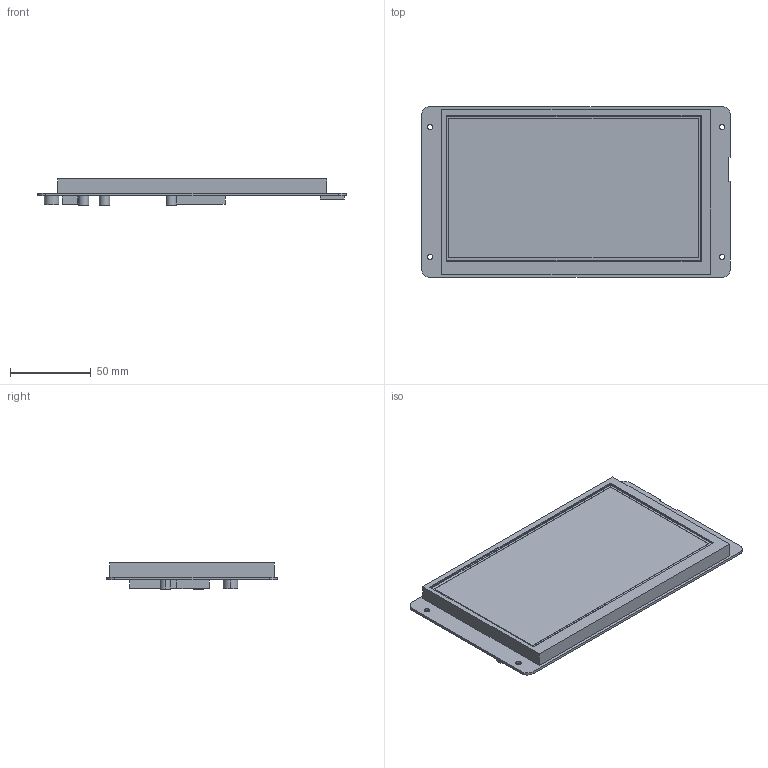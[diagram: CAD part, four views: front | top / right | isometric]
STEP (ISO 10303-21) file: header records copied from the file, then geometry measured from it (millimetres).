
FILE_DESCRIPTION((''),'2;1');
FILE_NAME('DMG10600Y070-05NR','2022-10-15T',('Administrator'),(''),'PRO/ENGINEER BY PARAMETRIC TECHNOLOGY CORPORATION, 2014320','PRO/ENGINEER BY PARAMETRIC TECHNOLOGY CORPORATION, 2014320','');
FILE_SCHEMA(('CONFIG_CONTROL_DESIGN'));
Length unit declared in the file: millimetre
Products named in the file (1): DMG10600Y070-05NR
Bounding box: 190.63 x 105.41 x 16.1 mm (x, y, z)
Volume: 173287.4 mm3; surface area: 47936.6 mm2
Topology: 1 solids, 1 shells, 69 faces, 168 edges, 112 vertices
Faces by surface type: plane 49, cylinder 20
Entity records: 2076 total; most frequent: CARTESIAN_POINT 349, DIRECTION 346, ORIENTED_EDGE 336, EDGE_CURVE 168, VECTOR 128, LINE 128, VERTEX_POINT 112, AXIS2_PLACEMENT_3D 109
